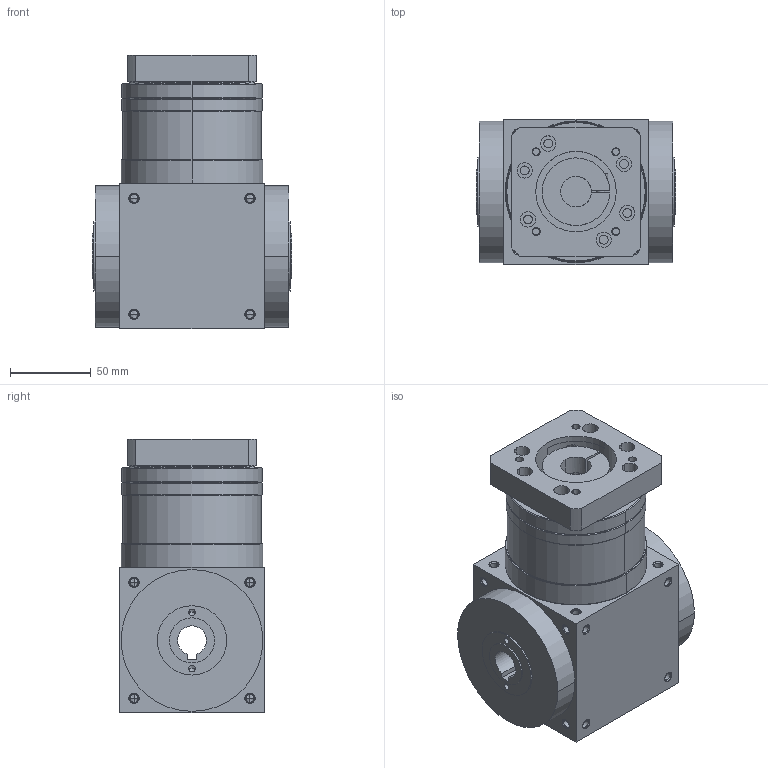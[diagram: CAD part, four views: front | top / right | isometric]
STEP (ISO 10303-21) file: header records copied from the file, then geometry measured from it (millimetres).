
FILE_DESCRIPTION((''),'2;1');
FILE_NAME('ATB090FH1-P0403300208_ASM','2021-10-21T',('Administrator'),(''),'PRO/ENGINEER BY PARAMETRIC TECHNOLOGY CORPORATION, 2015240','PRO/ENGINEER BY PARAMETRIC TECHNOLOGY CORPORATION, 2015240','');
FILE_SCHEMA(('CONFIG_CONTROL_DESIGN'));
Length unit declared in the file: millimetre
Products named in the file (7): P1502400001_D; P1801400001_D; ATH-HOUSING-4; P0906400001_D; ATB090FH1_ASM; P0403300208-0060; ATB090FH1-P0403300208_ASM
Assembly tree (6 placements, depth 3):
  ATB090FH1-P0403300208_ASM
    ATB090FH1_ASM
      P1502400001_D
      P1801400001_D
      ATH-HOUSING-4
      P0906400001_D
    P0403300208-0060
Bounding box: 124 x 90 x 170 mm (x, y, z)
Volume: 1168593 mm3; surface area: 152134 mm2
Topology: 5 solids, 34 shells, 450 faces, 1163 edges, 716 vertices
Faces by surface type: cylinder 247, cone 118, plane 79, torus 6
Entity records: 14248 total; most frequent: CARTESIAN_POINT 3203, DIRECTION 2413, ORIENTED_EDGE 2098, EDGE_CURVE 1107, AXIS2_PLACEMENT_3D 1002, VERTEX_POINT 716, EDGE_LOOP 555, CIRCLE 531
